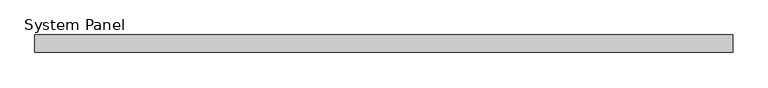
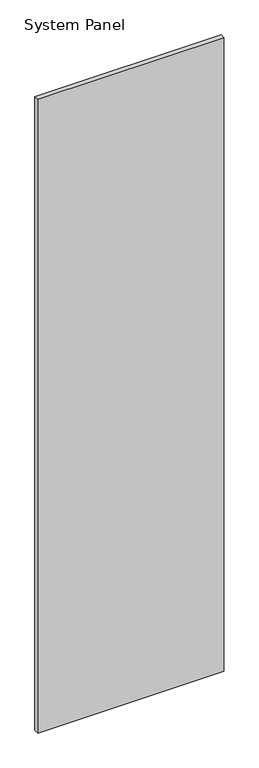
"""IFC4 building model written with IfcOpenShell, lengths in millimetres: plate geometry, System Panel : Purline 25mm Vertical - Plain RHEA - PUR."""

from ifc_helpers import new_model, si_unit, origin, origin_with_axes, place, context, project, spatial, polyline, outline, extrude, source, transform, mapped, element, save


def system_panel_71e9b80a(model_context):
    return source(origin(), model_context, "Body", "SweptSolid", [
        extrude(outline(polyline([(500.0, 0.0), (-500.0, 0.0), (-500.0, 25.0), (500.0, 25.0), (500.0, 0.0)])), origin_with_axes(), (0.0, 0.0, 1.0), 3600.0),
    ])


if __name__ == "__main__":
    model = new_model("IFC4")
    model_context = context("Model", 3, world=origin())
    ifc_project = project(units=[si_unit("LENGTHUNIT", "METRE", prefix="MILLI")], contexts=[model_context])
    site = spatial("IfcSite", under=ifc_project)
    building = spatial("IfcBuilding", under=site)
    placement = place(None, origin())
    system_panel_shape = system_panel_71e9b80a(model_context)
    element("IfcPlate", 1, ObjectType="System Panel : Purline 25mm Vertical - Plain RHEA - PUR", at=placement, inside=building, context=model_context, shape_type="MappedRepresentation", body=[
        mapped(system_panel_shape, transform((0.0, 0.0, 0.0), x_axis=(1.0, 0.0, 0.0), y_axis=(0.0, 1.0, 0.0), z_axis=(0.0, 0.0, 1.0))),
    ])
    save(model, "model.ifc")
